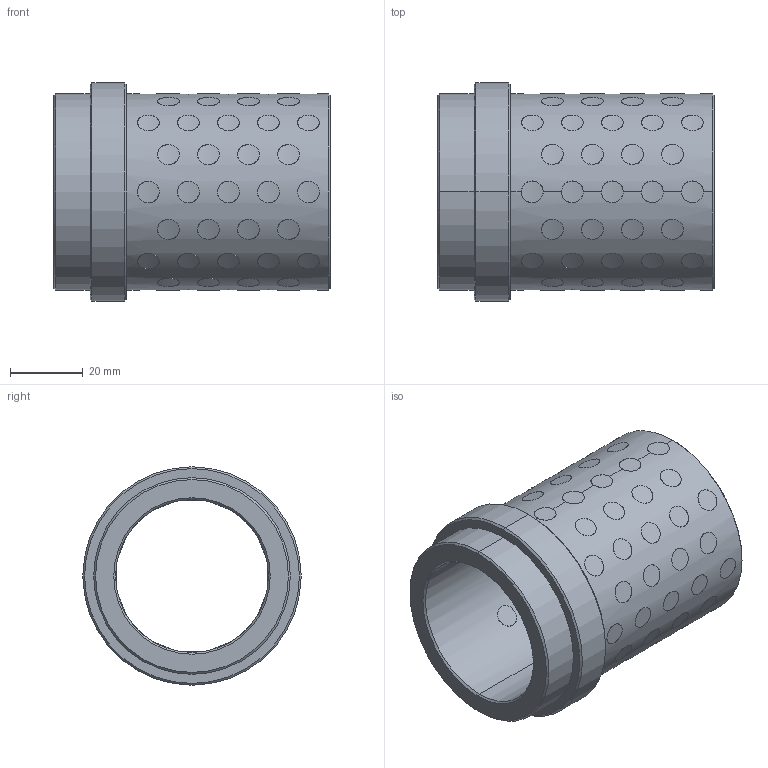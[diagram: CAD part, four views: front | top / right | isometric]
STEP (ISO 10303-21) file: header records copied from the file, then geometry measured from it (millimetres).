
FILE_DESCRIPTION((''),'2;1');
FILE_NAME('G31242066','2017-12-31T',('MANU'),(''),'PRO/ENGINEER BY PARAMETRIC TECHNOLOGY CORPORATION, 2012130','PRO/ENGINEER BY PARAMETRIC TECHNOLOGY CORPORATION, 2012130','');
FILE_SCHEMA(('CONFIG_CONTROL_DESIGN'));
Length unit declared in the file: millimetre
Products named in the file (1): G31242066
Bounding box: 76 x 60 x 60 mm (x, y, z)
Volume: 73809.5 mm3; surface area: 41920.5 mm2
Topology: 73 solids, 73 shells, 456 faces, 972 edges, 644 vertices
Faces by surface type: cylinder 440, cone 12, plane 4
Entity records: 22958 total; most frequent: CARTESIAN_POINT 14048, ORIENTED_EDGE 1944, DIRECTION 1296, EDGE_CURVE 972, VERTEX_POINT 644, B_SPLINE_CURVE_WITH_KNOTS 616, EDGE_LOOP 584, AXIS2_PLACEMENT_3D 484
